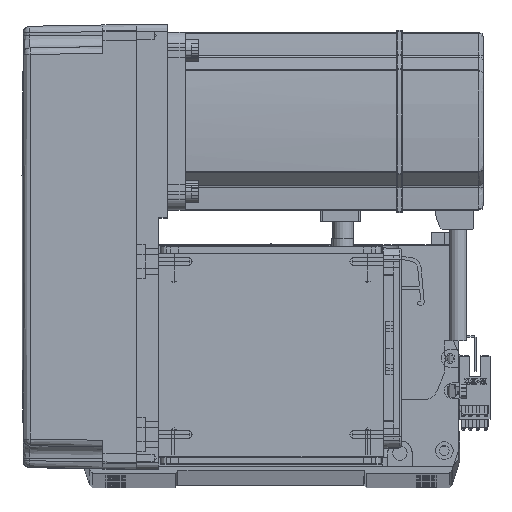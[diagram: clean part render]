
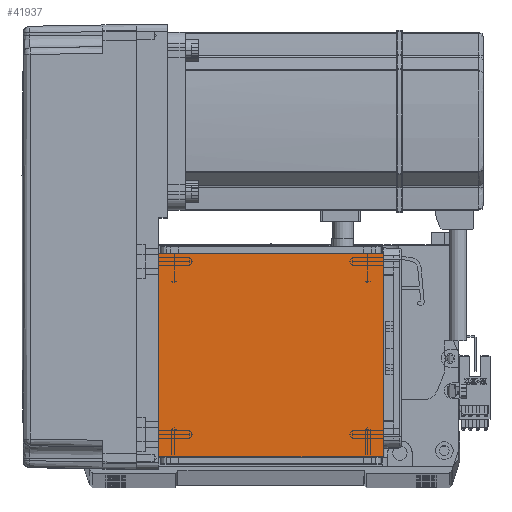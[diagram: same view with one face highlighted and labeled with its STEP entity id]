
A CAD part, top view. The second image highlights one B-rep face of the part: STEP entity #41937.
In plain terms, the highlighted planar face has unit normal (0, 0, 1).
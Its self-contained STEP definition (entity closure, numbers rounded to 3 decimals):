
#256 = VECTOR ( 'NONE', #24983, 1000. ) ;
#963 = CARTESIAN_POINT ( 'NONE',  ( -50.5, 20., 115. ) ) ;
#5668 = EDGE_CURVE ( 'NONE', #13933, #13070, #65244, .T. ) ;
#6608 = ORIENTED_EDGE ( 'NONE', *, *, #5668, .F. ) ;
#6741 = EDGE_CURVE ( 'NONE', #13933, #32448, #48606, .T. ) ;
#7811 = CARTESIAN_POINT ( 'NONE',  ( -50.5, 111.5, 115. ) ) ;
#9204 = CARTESIAN_POINT ( 'NONE',  ( -50.5, 122., 115. ) ) ;
#11186 = CARTESIAN_POINT ( 'NONE',  ( -70.004, 20., 115. ) ) ;
#13070 = VERTEX_POINT ( 'NONE', #62491 ) ;
#13096 = CARTESIAN_POINT ( 'NONE',  ( -70.004, 111.5, 115. ) ) ;
#13933 = VERTEX_POINT ( 'NONE', #7811 ) ;
#16749 = DIRECTION ( 'NONE',  ( 1., 0., 0. ) ) ;
#19657 = FACE_OUTER_BOUND ( 'NONE', #58112, .T. ) ;
#21694 = DIRECTION ( 'NONE',  ( -1., 0., 0. ) ) ;
#21864 = ORIENTED_EDGE ( 'NONE', *, *, #50019, .F. ) ;
#24983 = DIRECTION ( 'NONE',  ( 0., 1., 0. ) ) ;
#25980 = DIRECTION ( 'NONE',  ( 0., -1., 0. ) ) ;
#27174 = EDGE_CURVE ( 'NONE', #67631, #13070, #30229, .T. ) ;
#27277 = ORIENTED_EDGE ( 'NONE', *, *, #6741, .T. ) ;
#28437 = AXIS2_PLACEMENT_3D ( 'NONE', #32235, #48356, #16749 ) ;
#28739 = CARTESIAN_POINT ( 'NONE',  ( 50.5, 122., 115. ) ) ;
#30229 = LINE ( 'NONE', #28739, #256 ) ;
#32235 = CARTESIAN_POINT ( 'NONE',  ( 0., 0., 115. ) ) ;
#32448 = VERTEX_POINT ( 'NONE', #963 ) ;
#37458 = VECTOR ( 'NONE', #21694, 1000. ) ;
#39269 = CARTESIAN_POINT ( 'NONE',  ( 50.5, 20., 115. ) ) ;
#41915 = VECTOR ( 'NONE', #25980, 1000. ) ;
#41937 = ADVANCED_FACE ( 'NONE', ( #19657 ), #64847, .T. ) ;
#45809 = ORIENTED_EDGE ( 'NONE', *, *, #27174, .T. ) ;
#46122 = VECTOR ( 'NONE', #56514, 1000. ) ;
#48356 = DIRECTION ( 'NONE',  ( 0., 0., 1. ) ) ;
#48606 = LINE ( 'NONE', #9204, #41915 ) ;
#50019 = EDGE_CURVE ( 'NONE', #67631, #32448, #54076, .T. ) ;
#54076 = LINE ( 'NONE', #11186, #37458 ) ;
#56514 = DIRECTION ( 'NONE',  ( 1., 0., 0. ) ) ;
#58112 = EDGE_LOOP ( 'NONE', ( #6608, #27277, #21864, #45809 ) ) ;
#62491 = CARTESIAN_POINT ( 'NONE',  ( 50.5, 111.5, 115. ) ) ;
#64847 = PLANE ( 'NONE',  #28437 ) ;
#65244 = LINE ( 'NONE', #13096, #46122 ) ;
#67631 = VERTEX_POINT ( 'NONE', #39269 ) ;
